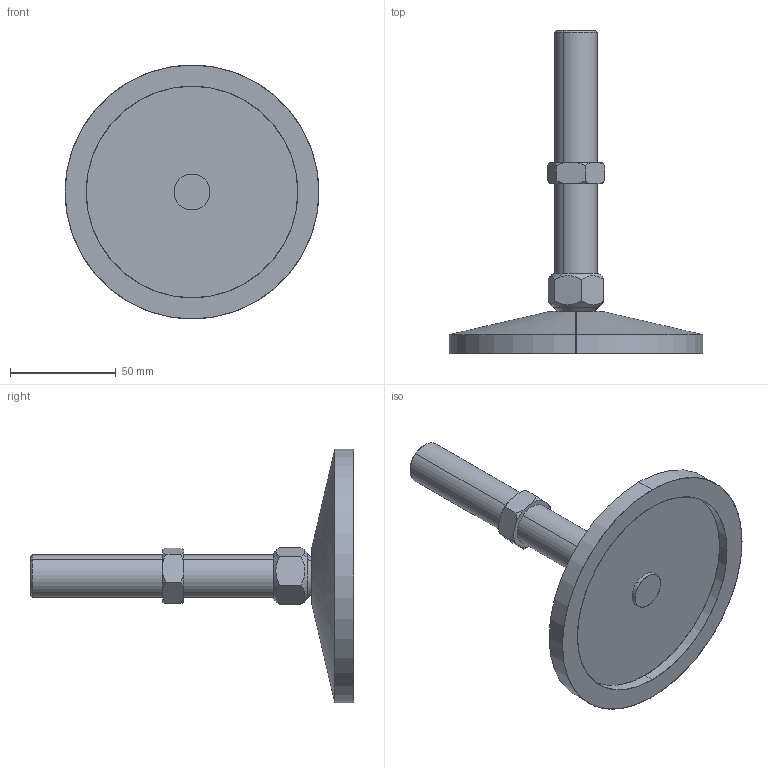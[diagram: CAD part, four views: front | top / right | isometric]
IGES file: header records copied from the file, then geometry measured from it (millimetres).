
Start section: SolidWorks IGES file using analytic representation for surfaces
Global section: file name: C:\Documents and Settings\URETIM3\Desktop\yeni katalog tolgay düzenli\A kataloðu\pabuc,saplama montajlarý\580 metal 590 paslanmaz taban sabit pabuç\ÇÝNKO KAPLAMA\580 122 015.IGS; native system: SolidWorks 2006 by SolidWorks Corporation; preprocessor: SolidWorks 2006 by SolidWorks Corporation; author: URETIM3; date: 060911.184845; units: millimetre
Bounding box: 120 x 153 x 120 mm (x, y, z)
Surface area: 38087.4 mm2 (no closed solid volume)
Topology: 0 solids, 0 shells, 50 faces, 944 edges, 944 vertices
Faces by surface type: revolution 30, bspline 20
